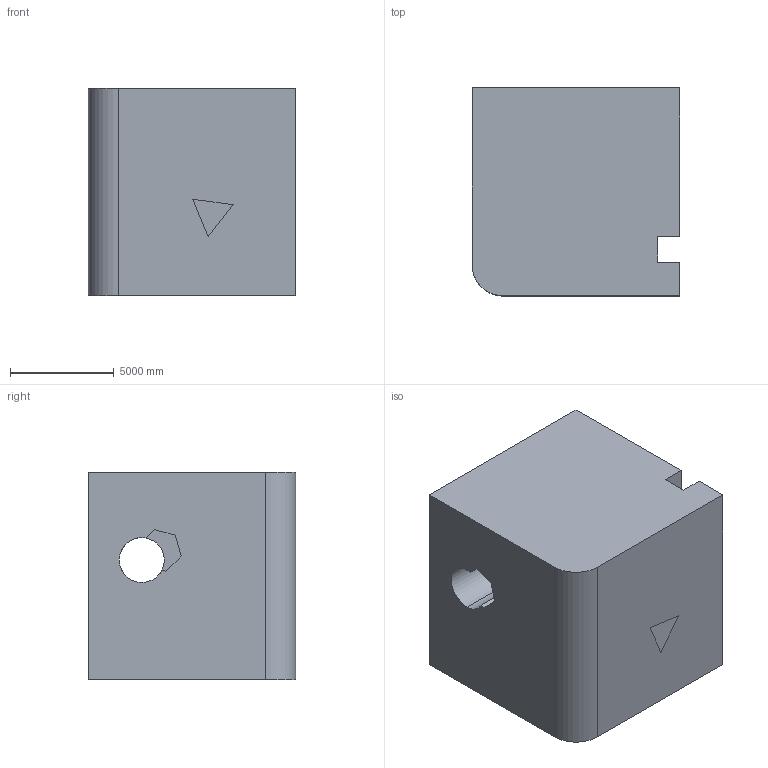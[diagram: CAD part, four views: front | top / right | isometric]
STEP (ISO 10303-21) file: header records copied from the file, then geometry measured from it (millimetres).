
FILE_DESCRIPTION (( 'STEP AP203' ), '1' );
FILE_NAME ('736.STEP', '2022-08-05T15:20:49', ( 'user' ), ( '' ), 'SwSTEP 2.0', 'SolidWorks 2021', '' );
FILE_SCHEMA (( 'CONFIG_CONTROL_DESIGN' ));
Length unit declared in the file: centimetre
Products named in the file (1): 736
Bounding box: 10000 x 10000 x 10000 mm (x, y, z)
Volume: 888413514218.2 mm3; surface area: 748325942.4 mm2
Topology: 1 solids, 1 shells, 36 faces, 99 edges, 66 vertices
Faces by surface type: plane 33, cylinder 3
Entity records: 1214 total; most frequent: CARTESIAN_POINT 202, ORIENTED_EDGE 198, DIRECTION 183, EDGE_CURVE 99, LINE 89, VECTOR 89, VERTEX_POINT 66, AXIS2_PLACEMENT_3D 47
